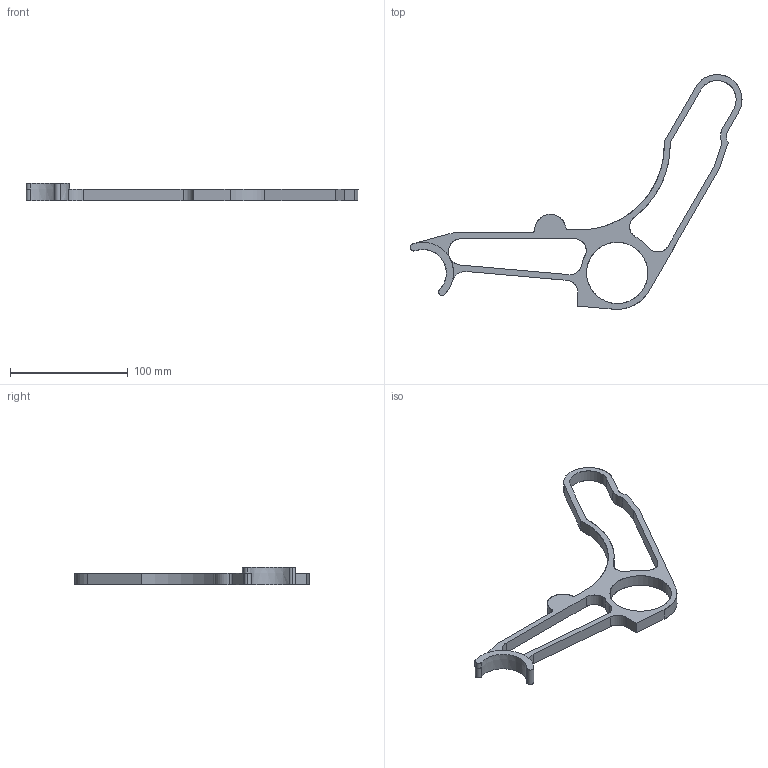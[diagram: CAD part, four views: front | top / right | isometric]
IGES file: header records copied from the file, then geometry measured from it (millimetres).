
Start section: SolidWorks IGES file using analytic representation for surfaces
Global section: file name: E:\Nouveau dossier\tarek\mécaniquee\L3GMCFM\TP0\EX14.IGS; native system: SolidWorks 2013; preprocessor: SolidWorks 2013; author: LENOVO; date: 180923.020133; units: millimetre
Bounding box: 281.9 x 199.27 x 15 mm (x, y, z)
Surface area: 28583.2 mm2 (no closed solid volume)
Topology: 0 solids, 0 shells, 54 faces, 815 edges, 812 vertices
Faces by surface type: revolution 33, bspline 21
